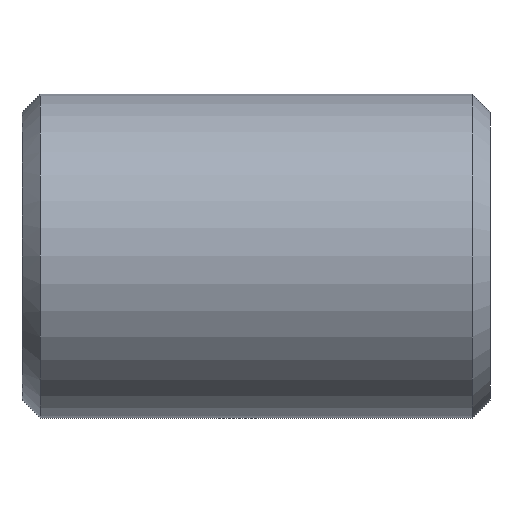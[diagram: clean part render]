
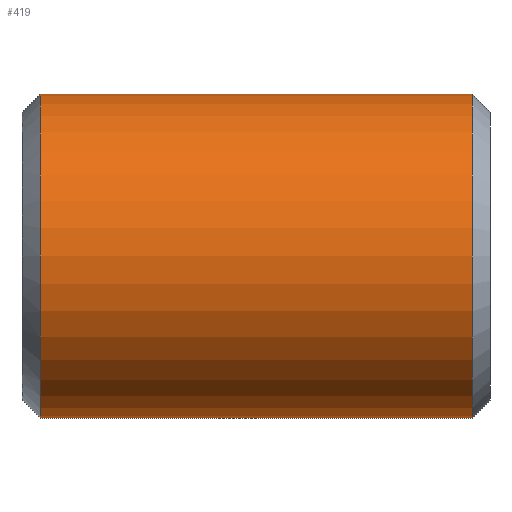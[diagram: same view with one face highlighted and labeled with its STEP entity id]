
A CAD part, front view. The second image highlights one B-rep face of the part: STEP entity #419.
In plain terms, the highlighted cylindrical face has radius 9 mm (diameter 18 mm), a partial arc.
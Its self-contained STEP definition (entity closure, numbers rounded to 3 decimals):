
#231=CARTESIAN_POINT('Vertex',(1.,0.,-9.)) ;
#238=CARTESIAN_POINT('Vertex',(1.,0.,9.)) ;
#267=CARTESIAN_POINT('Axis2P3D Location',(1.,0.,0.)) ;
#271=CARTESIAN_POINT('Vertex',(1.,-9.,0.)) ;
#274=CARTESIAN_POINT('Axis2P3D Location',(1.,0.,0.)) ;
#359=CARTESIAN_POINT('Line Origine',(26.,0.,9.)) ;
#363=CARTESIAN_POINT('Vertex',(25.,0.,9.)) ;
#377=CARTESIAN_POINT('Vertex',(25.,0.,-9.)) ;
#380=CARTESIAN_POINT('Line Origine',(26.,0.,-9.)) ;
#394=CARTESIAN_POINT('Axis2P3D Location',(26.,0.,0.)) ;
#399=CARTESIAN_POINT('Axis2P3D Location',(25.,0.,0.)) ;
#403=CARTESIAN_POINT('Vertex',(25.,-9.,0.)) ;
#406=CARTESIAN_POINT('Axis2P3D Location',(25.,0.,0.)) ;
#268=DIRECTION('Axis2P3D Direction',(1.,0.,-0.)) ;
#275=DIRECTION('Axis2P3D Direction',(1.,0.,-0.)) ;
#360=DIRECTION('Vector Direction',(-1.,0.,0.)) ;
#381=DIRECTION('Vector Direction',(-1.,0.,0.)) ;
#395=DIRECTION('Axis2P3D Direction',(-1.,-0.,-0.)) ;
#396=DIRECTION('Axis2P3D XDirection',(0.,0.,-1.)) ;
#400=DIRECTION('Axis2P3D Direction',(-1.,-0.,-0.)) ;
#407=DIRECTION('Axis2P3D Direction',(-1.,-0.,-0.)) ;
#269=AXIS2_PLACEMENT_3D('Circle Axis2P3D',#267,#268,$) ;
#276=AXIS2_PLACEMENT_3D('Circle Axis2P3D',#274,#275,$) ;
#397=AXIS2_PLACEMENT_3D('Cylinder Axis2P3D',#394,#395,#396) ;
#401=AXIS2_PLACEMENT_3D('Circle Axis2P3D',#399,#400,$) ;
#408=AXIS2_PLACEMENT_3D('Circle Axis2P3D',#406,#407,$) ;
#412=ORIENTED_EDGE('',*,*,#384,.T.) ;
#413=ORIENTED_EDGE('',*,*,#405,.F.) ;
#414=ORIENTED_EDGE('',*,*,#410,.F.) ;
#415=ORIENTED_EDGE('',*,*,#365,.T.) ;
#416=ORIENTED_EDGE('',*,*,#278,.T.) ;
#417=ORIENTED_EDGE('',*,*,#273,.T.) ;
#361=VECTOR('Line Direction',#360,1.) ;
#382=VECTOR('Line Direction',#381,1.) ;
#419=ADVANCED_FACE('352-12X26',(#418),#398,.T.) ;
#270=CIRCLE('generated circle',#269,9.) ;
#277=CIRCLE('generated circle',#276,9.) ;
#402=CIRCLE('generated circle',#401,9.) ;
#409=CIRCLE('generated circle',#408,9.) ;
#398=CYLINDRICAL_SURFACE('generated cylinder',#397,9.) ;
#273=EDGE_CURVE('',#272,#232,#270,.T.) ;
#278=EDGE_CURVE('',#239,#272,#277,.T.) ;
#365=EDGE_CURVE('',#364,#239,#362,.T.) ;
#384=EDGE_CURVE('',#232,#378,#383,.F.) ;
#405=EDGE_CURVE('',#404,#378,#402,.F.) ;
#410=EDGE_CURVE('',#364,#404,#409,.F.) ;
#411=EDGE_LOOP('',(#412,#413,#414,#415,#416,#417)) ;
#418=FACE_OUTER_BOUND('',#411,.T.) ;
#362=LINE('Line',#359,#361) ;
#383=LINE('Line',#380,#382) ;
#232=VERTEX_POINT('',#231) ;
#239=VERTEX_POINT('',#238) ;
#272=VERTEX_POINT('',#271) ;
#364=VERTEX_POINT('',#363) ;
#378=VERTEX_POINT('',#377) ;
#404=VERTEX_POINT('',#403) ;
